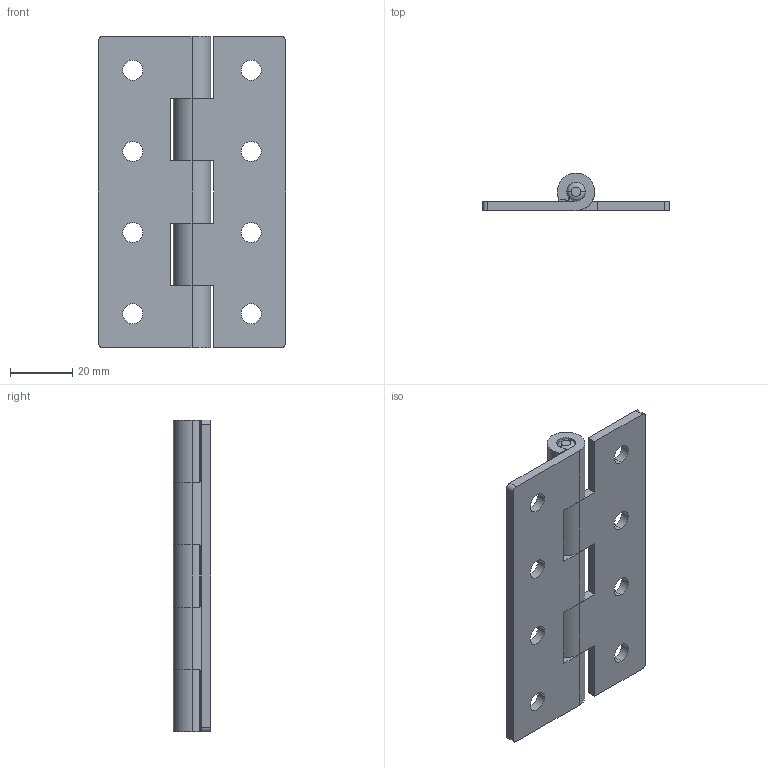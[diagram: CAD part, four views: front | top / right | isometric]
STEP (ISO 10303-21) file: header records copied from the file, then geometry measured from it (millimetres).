
FILE_DESCRIPTION (( 'STEP AP214' ), '1' );
FILE_NAME ('SK2-072-1.STEP', '2020-04-10T02:18:16', ( 'admin' ), ( 'Microsoft' ), 'SwSTEP 2.0', 'SolidWorks 2018', '' );
FILE_SCHEMA (( 'AUTOMOTIVE_DESIGN' ));
Length unit declared in the file: millimetre
Products named in the file (4): 2-072-1-F3; 2-072-1-F2; 2-072-1-F1; SK2-072-1
Assembly tree (3 placements, depth 2):
  SK2-072-1
    2-072-1-F1
    2-072-1-F2
    2-072-1-F3
Bounding box: 60 x 12 x 100 mm (x, y, z)
Volume: 25094.8 mm3; surface area: 19685.1 mm2
Topology: 3 solids, 3 shells, 202 faces, 557 edges, 370 vertices
Faces by surface type: plane 117, cylinder 52, bspline 29, torus 4
Entity records: 8149 total; most frequent: CARTESIAN_POINT 2900, ORIENTED_EDGE 1114, DIRECTION 969, EDGE_CURVE 557, LINE 387, VECTOR 387, VERTEX_POINT 370, AXIS2_PLACEMENT_3D 291
